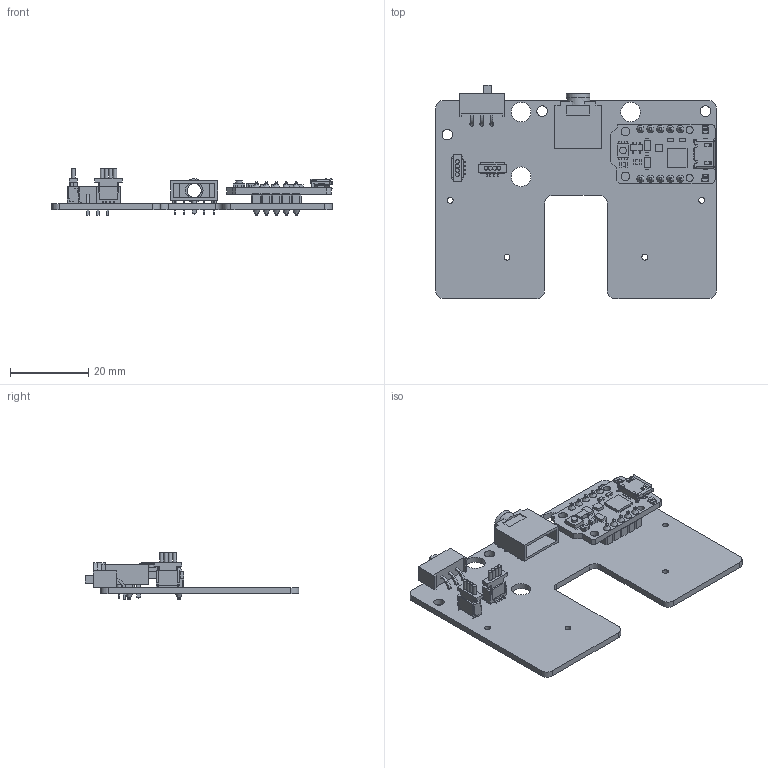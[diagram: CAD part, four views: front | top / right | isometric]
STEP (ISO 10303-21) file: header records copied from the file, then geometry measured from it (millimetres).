
FILE_DESCRIPTION(('KiCad electronic assembly'),'2;1');
FILE_NAME('Custom_board.step','2022-10-17T22:15:46',('Pcbnew'),('Kicad') ,'Open CASCADE STEP processor 7.5','KiCad to STEP converter','Unknown' );
FILE_SCHEMA(('AUTOMOTIVE_DESIGN { 1 0 10303 214 1 1 1 1 }'));
Length unit declared in the file: millimetre
Products named in the file (10): Custom_board 1; Switch; SOLID; Trinket M0; COMPOUND; JSTSH4_with_wire; Jack; Custom_board PCB
Assembly tree (10 placements, depth 3):
  Custom_board 1
    Switch
      SOLID
    Trinket M0
      COMPOUND
    JSTSH4_with_wire  x2
      SOLID
    Jack
      SOLID
    Custom_board PCB
Bounding box: 71.59 x 54.44 x 12.07 mm (x, y, z)
Volume: 6622.4 mm3; surface area: 10619.2 mm2
Topology: 29 solids, 29 shells, 1623 faces, 4261 edges, 2776 vertices
Faces by surface type: bspline 1562, cylinder 41, plane 20
Full cylindrical faces by diameter (mm): 1 x13, 1.5 x4, 2.7 x3, 5 x3
Entity records: 92682 total; most frequent: CARTESIAN_POINT 38970, B_SPLINE_CURVE_WITH_KNOTS 10388, ORIENTED_EDGE 7910, PCURVE 7910, DEFINITIONAL_REPRESENTATION 7910, EDGE_CURVE 3955, SURFACE_CURVE 3876, VERTEX_POINT 2582
